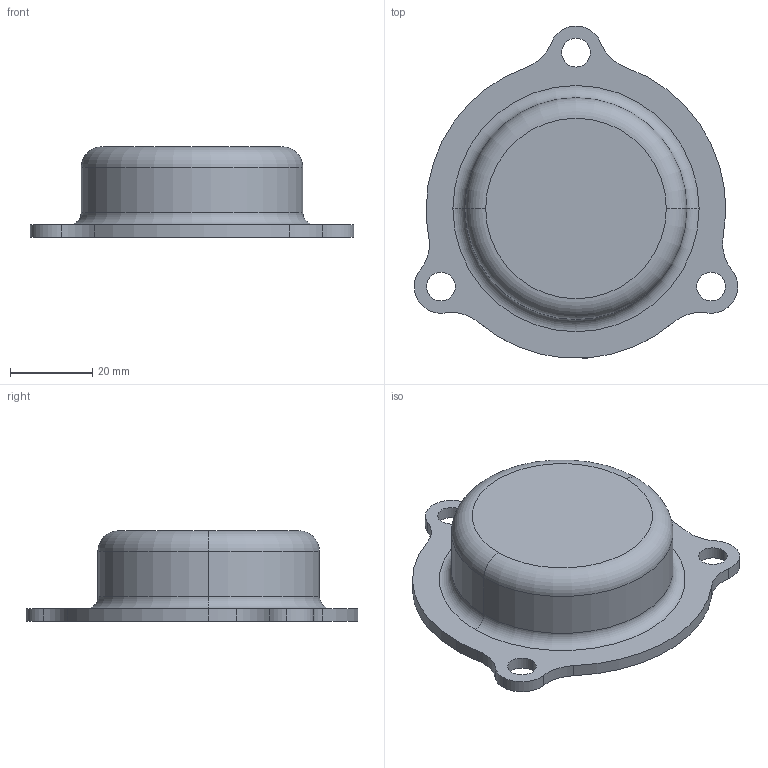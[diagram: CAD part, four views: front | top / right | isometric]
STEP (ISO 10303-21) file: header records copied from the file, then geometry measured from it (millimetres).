
FILE_DESCRIPTION (( 'STEP AP203' ), '1' );
FILE_NAME ('PEYD045.STEP', '2017-05-03T06:35:42', ( 'user' ), ( '' ), 'SwSTEP 2.0', 'SolidWorks 2014', '' );
FILE_SCHEMA (( 'CONFIG_CONTROL_DESIGN' ));
Length unit declared in the file: millimetre
Products named in the file (1): PEYD045
Bounding box: 78.82 x 80.89 x 22 mm (x, y, z)
Volume: 16229.9 mm3; surface area: 14942.8 mm2
Topology: 1 solids, 1 shells, 37 faces, 91 edges, 58 vertices
Faces by surface type: cylinder 25, torus 8, plane 4
Entity records: 1216 total; most frequent: DIRECTION 233, CARTESIAN_POINT 187, ORIENTED_EDGE 182, AXIS2_PLACEMENT_3D 104, EDGE_CURVE 91, CIRCLE 66, VERTEX_POINT 58, EDGE_LOOP 45
